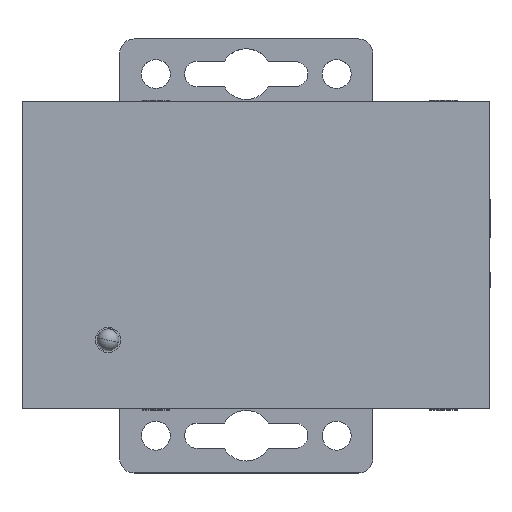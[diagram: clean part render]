
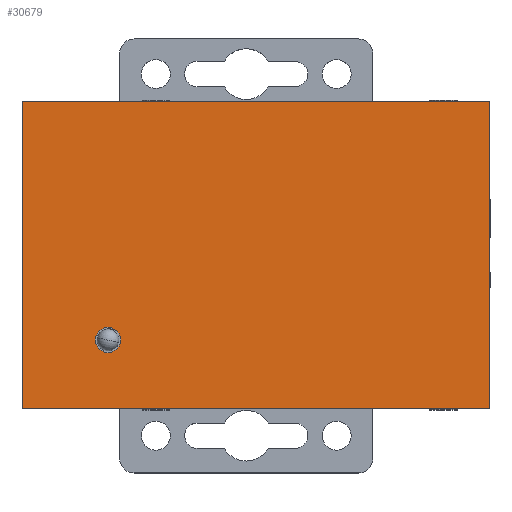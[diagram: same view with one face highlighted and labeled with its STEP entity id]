
A CAD part, top view. The second image highlights one B-rep face of the part: STEP entity #30679.
In plain terms, the highlighted planar face has unit normal (0, 0, 1).
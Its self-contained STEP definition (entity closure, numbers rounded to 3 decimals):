
#30450 = VERTEX_POINT('',#30451);
#30451 = CARTESIAN_POINT('',(0.,42.5,20.3));
#30457 = EDGE_CURVE('',#30450,#30458,#30460,.T.);
#30458 = VERTEX_POINT('',#30459);
#30459 = CARTESIAN_POINT('',(64.6,42.5,20.3));
#30460 = LINE('',#30461,#30462);
#30461 = CARTESIAN_POINT('',(0.,42.5,20.3));
#30462 = VECTOR('',#30463,1.);
#30463 = DIRECTION('',(1.,0.,0.));
#30579 = VERTEX_POINT('',#30580);
#30580 = CARTESIAN_POINT('',(64.6,0.,20.3));
#30588 = EDGE_CURVE('',#30579,#30458,#30589,.T.);
#30589 = LINE('',#30590,#30591);
#30590 = CARTESIAN_POINT('',(64.6,0.,20.3));
#30591 = VECTOR('',#30592,1.);
#30592 = DIRECTION('',(0.,1.,0.));
#30636 = EDGE_CURVE('',#30637,#30450,#30639,.T.);
#30637 = VERTEX_POINT('',#30638);
#30638 = CARTESIAN_POINT('',(0.,0.,20.3));
#30639 = LINE('',#30640,#30641);
#30640 = CARTESIAN_POINT('',(0.,0.,20.3));
#30641 = VECTOR('',#30642,1.);
#30642 = DIRECTION('',(0.,1.,0.));
#30679 = ADVANCED_FACE('',(#30680,#30691),#30702,.T.);
#30680 = FACE_BOUND('',#30681,.T.);
#30681 = EDGE_LOOP('',(#30682,#30683,#30689,#30690));
#30682 = ORIENTED_EDGE('',*,*,#30636,.F.);
#30683 = ORIENTED_EDGE('',*,*,#30684,.T.);
#30684 = EDGE_CURVE('',#30637,#30579,#30685,.T.);
#30685 = LINE('',#30686,#30687);
#30686 = CARTESIAN_POINT('',(0.,0.,20.3));
#30687 = VECTOR('',#30688,1.);
#30688 = DIRECTION('',(1.,0.,0.));
#30689 = ORIENTED_EDGE('',*,*,#30588,.T.);
#30690 = ORIENTED_EDGE('',*,*,#30457,.F.);
#30691 = FACE_BOUND('',#30692,.T.);
#30692 = EDGE_LOOP('',(#30693));
#30693 = ORIENTED_EDGE('',*,*,#30694,.T.);
#30694 = EDGE_CURVE('',#30695,#30695,#30697,.T.);
#30695 = VERTEX_POINT('',#30696);
#30696 = CARTESIAN_POINT('',(13.65,9.5,20.3));
#30697 = CIRCLE('',#30698,1.75);
#30698 = AXIS2_PLACEMENT_3D('',#30699,#30700,#30701);
#30699 = CARTESIAN_POINT('',(11.9,9.5,20.3));
#30700 = DIRECTION('',(0.,0.,-1.));
#30701 = DIRECTION('',(1.,0.,0.));
#30702 = PLANE('',#30703);
#30703 = AXIS2_PLACEMENT_3D('',#30704,#30705,#30706);
#30704 = CARTESIAN_POINT('',(0.,0.,20.3));
#30705 = DIRECTION('',(0.,0.,1.));
#30706 = DIRECTION('',(1.,0.,0.));
